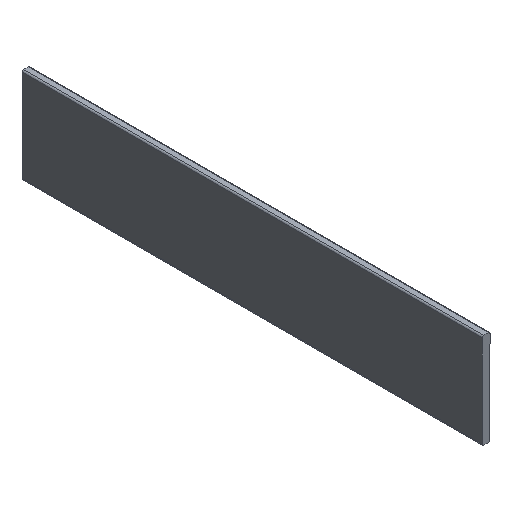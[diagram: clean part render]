
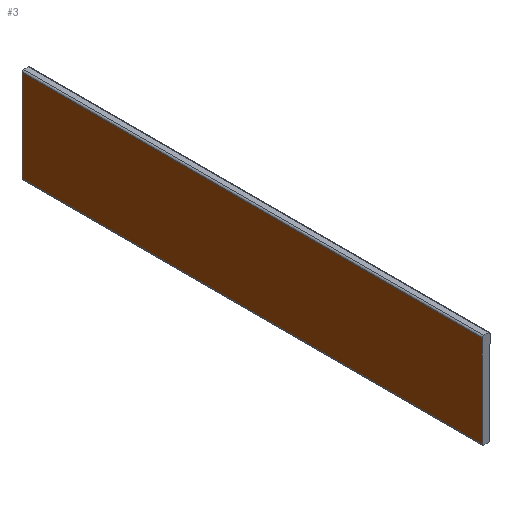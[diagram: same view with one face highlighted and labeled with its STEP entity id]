
A CAD part, isometric view. The second image highlights one B-rep face of the part: STEP entity #3.
In plain terms, the highlighted planar face has unit normal (-1, 0, 0).
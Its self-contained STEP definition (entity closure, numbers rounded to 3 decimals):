
#3 = ADVANCED_FACE ( 'NONE', ( #57 ), #249, .T. ) ;
#33 = ORIENTED_EDGE ( 'NONE', *, *, #95, .T. ) ;
#38 = ORIENTED_EDGE ( 'NONE', *, *, #104, .T. ) ;
#39 = ORIENTED_EDGE ( 'NONE', *, *, #117, .T. ) ;
#41 = ORIENTED_EDGE ( 'NONE', *, *, #103, .F. ) ;
#52 = EDGE_LOOP ( 'NONE', ( #39, #38, #41, #33 ) ) ;
#57 = FACE_OUTER_BOUND ( 'NONE', #52, .T. ) ;
#95 = EDGE_CURVE ( 'NONE', #245, #232, #335, .T. ) ;
#103 = EDGE_CURVE ( 'NONE', #245, #233, #283, .T. ) ;
#104 = EDGE_CURVE ( 'NONE', #236, #233, #291, .T. ) ;
#113 = AXIS2_PLACEMENT_3D ( 'NONE', #246, #228, #227 ) ;
#117 = EDGE_CURVE ( 'NONE', #232, #236, #298, .T. ) ;
#130 = DIRECTION ( 'NONE',  ( 0., 0., -1. ) ) ;
#132 = CARTESIAN_POINT ( 'NONE',  ( -3.9, 463., 94.2 ) ) ;
#143 = CARTESIAN_POINT ( 'NONE',  ( -3.9, 0., 1.6 ) ) ;
#155 = CARTESIAN_POINT ( 'NONE',  ( -3.9, 0., 94.2 ) ) ;
#168 = CARTESIAN_POINT ( 'NONE',  ( -3.9, 463., 1.6 ) ) ;
#170 = DIRECTION ( 'NONE',  ( 0., 1., 0. ) ) ;
#227 = DIRECTION ( 'NONE',  ( 0., -1., 0. ) ) ;
#228 = DIRECTION ( 'NONE',  ( -1., 0., 0. ) ) ;
#232 = VERTEX_POINT ( 'NONE', #132 ) ;
#233 = VERTEX_POINT ( 'NONE', #143 ) ;
#236 = VERTEX_POINT ( 'NONE', #168 ) ;
#245 = VERTEX_POINT ( 'NONE', #155 ) ;
#246 = CARTESIAN_POINT ( 'NONE',  ( -3.9, 463., 0. ) ) ;
#249 = PLANE ( 'NONE',  #113 ) ;
#255 = CARTESIAN_POINT ( 'NONE',  ( -3.9, 463., 0. ) ) ;
#260 = DIRECTION ( 'NONE',  ( 0., 0., -1. ) ) ;
#264 = CARTESIAN_POINT ( 'NONE',  ( -3.9, 463., 94.2 ) ) ;
#266 = CARTESIAN_POINT ( 'NONE',  ( -3.9, 0., 0. ) ) ;
#267 = CARTESIAN_POINT ( 'NONE',  ( -3.9, 463., 1.6 ) ) ;
#268 = DIRECTION ( 'NONE',  ( 0., -1., 0. ) ) ;
#283 = LINE ( 'NONE', #266, #287 ) ;
#287 = VECTOR ( 'NONE', #260, 1000. ) ;
#291 = LINE ( 'NONE', #267, #292 ) ;
#292 = VECTOR ( 'NONE', #268, 1000. ) ;
#298 = LINE ( 'NONE', #255, #299 ) ;
#299 = VECTOR ( 'NONE', #130, 1000. ) ;
#325 = VECTOR ( 'NONE', #170, 1000. ) ;
#335 = LINE ( 'NONE', #264, #325 ) ;
